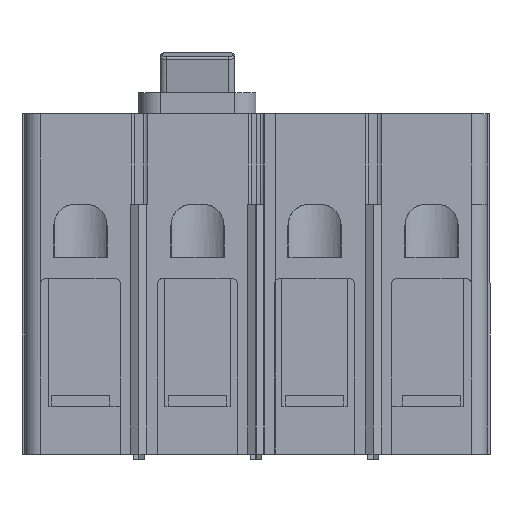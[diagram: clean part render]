
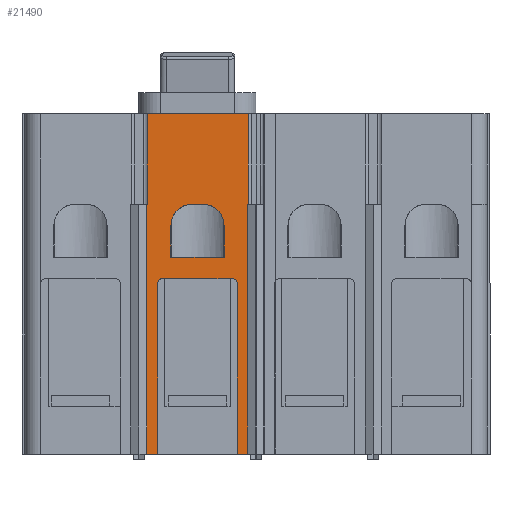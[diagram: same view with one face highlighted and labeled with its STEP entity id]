
A CAD part, front view. The second image highlights one B-rep face of the part: STEP entity #21490.
In plain terms, the highlighted planar face has unit normal (0, -1, 0).
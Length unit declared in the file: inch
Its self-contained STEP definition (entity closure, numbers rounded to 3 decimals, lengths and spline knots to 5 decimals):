
#1438=CARTESIAN_POINT('',(-0.1069,-4.48419,-2.93953));
#1439=VERTEX_POINT('',#1438);
#1446=CARTESIAN_POINT('',(-0.2319,-4.48419,-2.93953));
#1447=VERTEX_POINT('',#1446);
#1448=CARTESIAN_POINT('',(-0.1069,-4.48419,-2.93953));
#1449=DIRECTION('',(-1.0,0.0,0.0));
#1450=VECTOR('',#1449,0.125);
#1451=LINE('',#1448,#1450);
#1452=EDGE_CURVE('',#1439,#1447,#1451,.T.);
#1470=CARTESIAN_POINT('',(-1.1699,-4.48419,-2.93953));
#1471=VERTEX_POINT('',#1470);
#1478=CARTESIAN_POINT('',(-1.2939,-4.48419,-2.93953));
#1479=VERTEX_POINT('',#1478);
#1480=CARTESIAN_POINT('',(-1.1699,-4.48419,-2.93953));
#1481=DIRECTION('',(-1.0,0.0,0.0));
#1482=VECTOR('',#1481,0.124);
#1483=LINE('',#1480,#1482);
#1484=EDGE_CURVE('',#1471,#1479,#1483,.T.);
#2062=CARTESIAN_POINT('',(-1.2934,-4.48419,1.06047));
#2063=VERTEX_POINT('',#2062);
#2070=CARTESIAN_POINT('',(-0.1064,-4.48419,1.06047));
#2071=VERTEX_POINT('',#2070);
#2072=CARTESIAN_POINT('',(-0.1064,-4.48419,1.06047));
#2073=DIRECTION('',(-1.0,0.0,0.0));
#2074=VECTOR('',#2073,1.187);
#2075=LINE('',#2072,#2074);
#2076=EDGE_CURVE('',#2071,#2063,#2075,.T.);
#4890=CARTESIAN_POINT('',(-1.0124,-4.48419,-0.62653));
#4891=VERTEX_POINT('',#4890);
#4898=CARTESIAN_POINT('',(-0.3874,-4.48419,-0.62653));
#4899=VERTEX_POINT('',#4898);
#4900=CARTESIAN_POINT('',(-0.3874,-4.48419,-0.62653));
#4901=DIRECTION('',(-1.0,0.0,0.0));
#4902=VECTOR('',#4901,0.625);
#4903=LINE('',#4900,#4902);
#4904=EDGE_CURVE('',#4899,#4891,#4903,.T.);
#5042=CARTESIAN_POINT('',(-0.3874,-4.48419,-0.25153));
#5043=VERTEX_POINT('',#5042);
#5050=CARTESIAN_POINT('',(-0.6374,-4.48419,-0.00153));
#5051=VERTEX_POINT('',#5050);
#5052=CARTESIAN_POINT('',(-0.6374,-4.48419,-0.25153));
#5053=DIRECTION('',(0.0,1.0,0.0));
#5054=DIRECTION('',(-1.0,0.0,0.0));
#5055=AXIS2_PLACEMENT_3D('',#5052,#5053,#5054);
#5056=CIRCLE('',#5055,0.25);
#5057=EDGE_CURVE('',#5051,#5043,#5056,.T.);
#5074=CARTESIAN_POINT('',(-0.3874,-4.48419,-0.25153));
#5075=DIRECTION('',(0.0,0.0,-1.0));
#5076=VECTOR('',#5075,0.375);
#5077=LINE('',#5074,#5076);
#5078=EDGE_CURVE('',#5043,#4899,#5077,.T.);
#5091=CARTESIAN_POINT('',(-0.7624,-4.48419,-0.00153));
#5092=VERTEX_POINT('',#5091);
#5099=CARTESIAN_POINT('',(-1.0124,-4.48419,-0.25153));
#5100=VERTEX_POINT('',#5099);
#5101=CARTESIAN_POINT('',(-0.7624,-4.48419,-0.25153));
#5102=DIRECTION('',(0.0,1.0,0.0));
#5103=DIRECTION('',(0.0,0.0,-1.0));
#5104=AXIS2_PLACEMENT_3D('',#5101,#5102,#5103);
#5105=CIRCLE('',#5104,0.25);
#5106=EDGE_CURVE('',#5100,#5092,#5105,.T.);
#5125=CARTESIAN_POINT('',(-1.0124,-4.48419,-0.62653));
#5126=DIRECTION('',(0.0,0.0,1.0));
#5127=VECTOR('',#5126,0.375);
#5128=LINE('',#5125,#5127);
#5129=EDGE_CURVE('',#4891,#5100,#5128,.T.);
#11291=CARTESIAN_POINT('',(-0.1069,-4.48419,-0.00153));
#11292=VERTEX_POINT('',#11291);
#11301=CARTESIAN_POINT('',(-0.1064,-4.48419,-0.00153));
#11302=VERTEX_POINT('',#11301);
#11309=CARTESIAN_POINT('',(-0.1064,-4.48419,-0.00153));
#11310=DIRECTION('',(-1.0,0.0,0.0));
#11311=VECTOR('',#11310,0.0005);
#11312=LINE('',#11309,#11311);
#11313=EDGE_CURVE('',#11302,#11292,#11312,.T.);
#11352=CARTESIAN_POINT('',(-0.7624,-4.48419,-0.00153));
#11353=DIRECTION('',(1.0,0.0,0.0));
#11354=VECTOR('',#11353,0.125);
#11355=LINE('',#11352,#11354);
#11356=EDGE_CURVE('',#5092,#5051,#11355,.T.);
#11429=CARTESIAN_POINT('',(-1.2934,-4.48419,-0.00153));
#11430=VERTEX_POINT('',#11429);
#11439=CARTESIAN_POINT('',(-1.2934,-4.48419,-0.00153));
#11440=DIRECTION('',(0.0,0.0,1.0));
#11441=VECTOR('',#11440,1.062);
#11442=LINE('',#11439,#11441);
#11443=EDGE_CURVE('',#11430,#2063,#11442,.T.);
#15964=CARTESIAN_POINT('',(-0.1064,-4.48419,-0.00153));
#15965=DIRECTION('',(0.0,0.0,1.0));
#15966=VECTOR('',#15965,1.062);
#15967=LINE('',#15964,#15966);
#15968=EDGE_CURVE('',#11302,#2071,#15967,.T.);
#17365=CARTESIAN_POINT('',(-1.2939,-4.48419,-0.00153));
#17366=VERTEX_POINT('',#17365);
#17373=CARTESIAN_POINT('',(-1.2934,-4.48419,-0.00153));
#17374=DIRECTION('',(-1.0,0.0,0.0));
#17375=VECTOR('',#17374,0.0005);
#17376=LINE('',#17373,#17375);
#17377=EDGE_CURVE('',#11430,#17366,#17376,.T.);
#21380=CARTESIAN_POINT('',(-0.2939,-4.48419,-0.87653));
#21381=VERTEX_POINT('',#21380);
#21388=CARTESIAN_POINT('',(-1.1079,-4.48419,-0.87653));
#21389=VERTEX_POINT('',#21388);
#21390=CARTESIAN_POINT('',(-0.2939,-4.48419,-0.87653));
#21391=DIRECTION('',(-1.0,0.0,0.0));
#21392=VECTOR('',#21391,0.814);
#21393=LINE('',#21390,#21392);
#21394=EDGE_CURVE('',#21381,#21389,#21393,.T.);
#21413=CARTESIAN_POINT('',(-1.1699,-4.48419,-0.93853));
#21414=VERTEX_POINT('',#21413);
#21415=CARTESIAN_POINT('',(-1.1079,-4.48419,-0.93853));
#21416=DIRECTION('',(0.0,-1.0,0.0));
#21417=DIRECTION('',(0.0,0.0,1.0));
#21418=AXIS2_PLACEMENT_3D('',#21415,#21416,#21417);
#21419=CIRCLE('',#21418,0.062);
#21420=EDGE_CURVE('',#21389,#21414,#21419,.T.);
#21433=CARTESIAN_POINT('',(1.3621,-4.48419,-0.00153));
#21434=DIRECTION('',(0.0,-1.0,0.0));
#21435=DIRECTION('',(0.0,0.0,-1.0));
#21436=AXIS2_PLACEMENT_3D('',#21433,#21434,#21435);
#21437=PLANE('',#21436);
#21438=CARTESIAN_POINT('',(-0.2319,-4.48419,-0.93853));
#21439=VERTEX_POINT('',#21438);
#21440=CARTESIAN_POINT('',(-0.2319,-4.48419,-2.93953));
#21441=DIRECTION('',(0.0,0.0,1.0));
#21442=VECTOR('',#21441,2.001);
#21443=LINE('',#21440,#21442);
#21444=EDGE_CURVE('',#1447,#21439,#21443,.T.);
#21445=ORIENTED_EDGE('',*,*,#21444,.F.);
#21446=ORIENTED_EDGE('',*,*,#1452,.F.);
#21447=CARTESIAN_POINT('',(-0.1069,-4.48419,-0.00153));
#21448=DIRECTION('',(0.0,0.0,-1.0));
#21449=VECTOR('',#21448,2.938);
#21450=LINE('',#21447,#21449);
#21451=EDGE_CURVE('',#11292,#1439,#21450,.T.);
#21452=ORIENTED_EDGE('',*,*,#21451,.F.);
#21453=ORIENTED_EDGE('',*,*,#11313,.F.);
#21454=ORIENTED_EDGE('',*,*,#15968,.T.);
#21455=ORIENTED_EDGE('',*,*,#2076,.T.);
#21456=ORIENTED_EDGE('',*,*,#11443,.F.);
#21457=ORIENTED_EDGE('',*,*,#17377,.T.);
#21458=CARTESIAN_POINT('',(-1.2939,-4.48419,-0.00153));
#21459=DIRECTION('',(0.0,0.0,-1.0));
#21460=VECTOR('',#21459,2.938);
#21461=LINE('',#21458,#21460);
#21462=EDGE_CURVE('',#17366,#1479,#21461,.T.);
#21463=ORIENTED_EDGE('',*,*,#21462,.T.);
#21464=ORIENTED_EDGE('',*,*,#1484,.F.);
#21465=CARTESIAN_POINT('',(-1.1699,-4.48419,-2.93953));
#21466=DIRECTION('',(0.0,0.0,1.0));
#21467=VECTOR('',#21466,2.001);
#21468=LINE('',#21465,#21467);
#21469=EDGE_CURVE('',#1471,#21414,#21468,.T.);
#21470=ORIENTED_EDGE('',*,*,#21469,.T.);
#21471=ORIENTED_EDGE('',*,*,#21420,.F.);
#21472=ORIENTED_EDGE('',*,*,#21394,.F.);
#21473=CARTESIAN_POINT('',(-0.2939,-4.48419,-0.93853));
#21474=DIRECTION('',(0.0,-1.0,0.0));
#21475=DIRECTION('',(1.0,0.0,0.0));
#21476=AXIS2_PLACEMENT_3D('',#21473,#21474,#21475);
#21477=CIRCLE('',#21476,0.062);
#21478=EDGE_CURVE('',#21439,#21381,#21477,.T.);
#21479=ORIENTED_EDGE('',*,*,#21478,.F.);
#21480=EDGE_LOOP('',(#21445,#21446,#21452,#21453,#21454,#21455,#21456,#21457,#21463,#21464,#21470,#21471,#21472,#21479));
#21481=FACE_OUTER_BOUND('',#21480,.T.);
#21482=ORIENTED_EDGE('',*,*,#4904,.T.);
#21483=ORIENTED_EDGE('',*,*,#5129,.T.);
#21484=ORIENTED_EDGE('',*,*,#5106,.T.);
#21485=ORIENTED_EDGE('',*,*,#11356,.T.);
#21486=ORIENTED_EDGE('',*,*,#5057,.T.);
#21487=ORIENTED_EDGE('',*,*,#5078,.T.);
#21488=EDGE_LOOP('',(#21482,#21483,#21484,#21485,#21486,#21487));
#21489=FACE_BOUND('',#21488,.T.);
#21490=ADVANCED_FACE('',(#21481,#21489),#21437,.T.);
